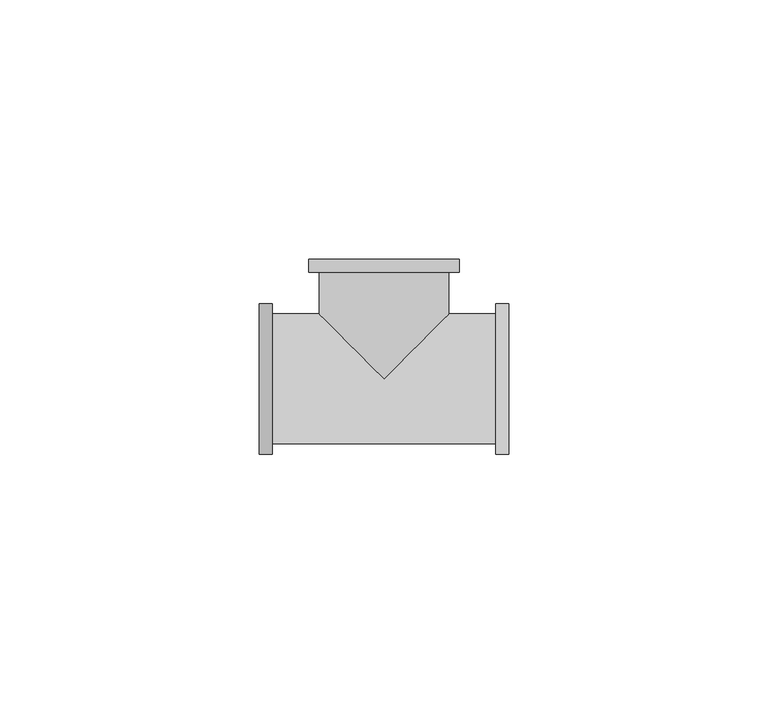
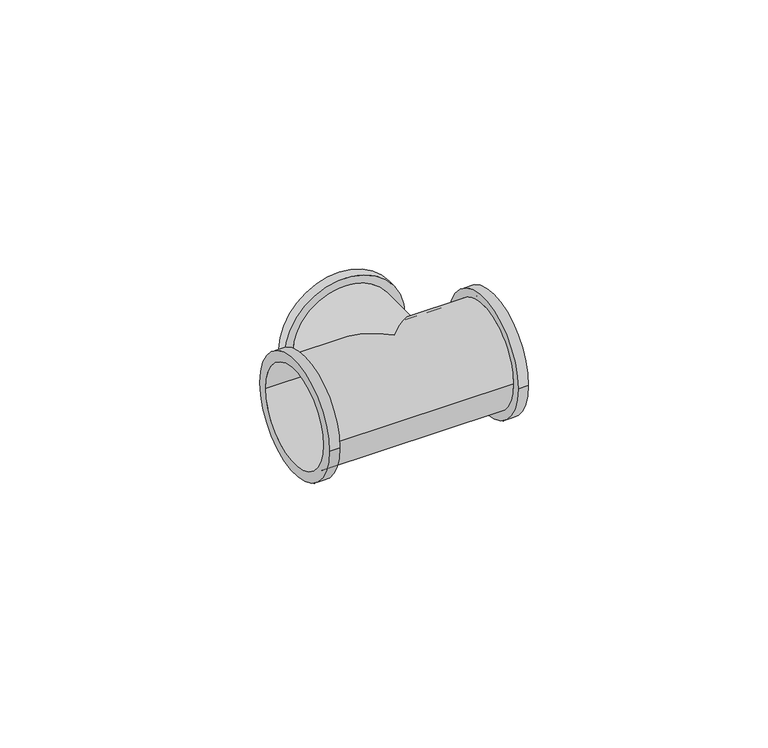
"""IFC4 building model written with IfcOpenShell, lengths in millimetres: pipe fitting geometry, БИР ПЕКС_КМП_Тройник ПЕКС : Тройник ПЕКС_КМП."""

from ifc_helpers import new_model, si_unit, frame, origin, place, context, project, spatial, polyline, circle_curve, ellipse_curve, source, transform, mapped, element, save
from ifc_brep_helpers import plane_surface, cylinder_surface, revolved_surface, advanced_brep


def pipe_fitting_5934a53c(model_context):
    return source(origin(), model_context, "Body", "AdvancedBrep", [
        advanced_brep(
        [(-14.5, 23.0, 0.0), (14.5, 23.0, 0.0), (-12.0, 23.0, 0.0), (12.0, 23.0, 0.0), (12.5, 12.5, 0.0), (0.0, 0.0, -12.5), (-12.5, 12.5, 0.0), (-12.5, 20.5, 0.0), (12.5, 20.5, 0.0), (0.0, 0.0, 12.5), (24.0, -14.5, 0.0), (24.0, 14.5, 0.0), (24.0, 12.0, 0.0), (24.0, -12.0, 0.0), (-24.0, -14.5, 0.0), (-24.0, 14.5, 0.0), (-24.0, -12.0, 0.0), (-24.0, 12.0, 0.0), (21.5, 12.5, 0.0), (21.5, -12.5, 0.0), (-21.5, -12.5, 0.0), (-21.5, 12.5, 0.0), (-14.5, 20.5, 0.0), (14.5, 20.5, 0.0), (-21.5, -14.5, 0.0), (-21.5, 14.5, 0.0), (21.5, -14.5, 0.0), (21.5, 14.5, 0.0), (-12.0, 12.0, 0.0), (0.0, 0.0, -12.0), (12.0, 12.0, 0.0), (0.0, 0.0, 12.0)],
        [
            (0, 1, circle_curve(frame((0.0, 23.0, 0.0), z_axis=(0.0, 1.0, 0.0), x_axis=(1.0, 0.0, 0.0)), 14.5)),
            (1, 0, circle_curve(frame((0.0, 23.0, 0.0), z_axis=(0.0, 1.0, 0.0), x_axis=(1.0, 0.0, 0.0)), 14.5)),
            (2, 3, circle_curve(frame((0.0, 23.0, 0.0), z_axis=(0.0, -1.0, 0.0), x_axis=(1.0, 0.0, 0.0)), 12.0)),
            (3, 2, circle_curve(frame((0.0, 23.0, 0.0), z_axis=(0.0, -1.0, 0.0), x_axis=(1.0, 0.0, 0.0)), 12.0)),
            (4, 5, ellipse_curve(frame((0.0, 0.0, 0.0), z_axis=(-0.7071067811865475, 0.7071067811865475, 0.0), x_axis=(-0.7071067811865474, -0.7071067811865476, 0.0)), 17.6776695, 12.5)),
            (5, 6, ellipse_curve(frame((0.0, 0.0, 0.0), z_axis=(0.7071067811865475, 0.7071067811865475, 0.0), x_axis=(0.7071067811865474, -0.7071067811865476, 0.0)), 17.6776695, 12.5)),
            (6, 7),
            (7, 8, circle_curve(frame((0.0, 20.5, 0.0), z_axis=(0.0, -1.0, 0.0), x_axis=(1.0, 0.0, 0.0)), 12.5)),
            (8, 4),
            (9, 4, ellipse_curve(frame((0.0, 0.0, 0.0), z_axis=(-0.7071067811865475, 0.7071067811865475, 0.0), x_axis=(-0.7071067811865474, -0.7071067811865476, 0.0)), 17.6776695, 12.5)),
            (8, 7, circle_curve(frame((0.0, 20.5, 0.0), z_axis=(0.0, -1.0, 0.0), x_axis=(1.0, 0.0, 0.0)), 12.5)),
            (6, 9, ellipse_curve(frame((0.0, 0.0, 0.0), z_axis=(0.7071067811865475, 0.7071067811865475, 0.0), x_axis=(0.7071067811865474, -0.7071067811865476, 0.0)), 17.6776695, 12.5)),
            (10, 11, circle_curve(frame((24.0, 0.0, 0.0), z_axis=(1.0, 0.0, 0.0), x_axis=(0.0, 1.0, 0.0)), 14.5)),
            (11, 10, circle_curve(frame((24.0, 0.0, 0.0), z_axis=(1.0, 0.0, 0.0), x_axis=(0.0, 1.0, 0.0)), 14.5)),
            (12, 13, circle_curve(frame((24.0, 0.0, 0.0), z_axis=(-1.0, 0.0, 0.0), x_axis=(0.0, 1.0, 0.0)), 12.0)),
            (13, 12, circle_curve(frame((24.0, 0.0, 0.0), z_axis=(-1.0, 0.0, 0.0), x_axis=(0.0, 1.0, 0.0)), 12.0)),
            (14, 15, circle_curve(frame((-24.0, 0.0, 0.0), z_axis=(-1.0, 0.0, 0.0), x_axis=(0.0, 1.0, 0.0)), 14.5)),
            (15, 14, circle_curve(frame((-24.0, 0.0, 0.0), z_axis=(-1.0, 0.0, 0.0), x_axis=(0.0, 1.0, 0.0)), 14.5)),
            (16, 17, circle_curve(frame((-24.0, 0.0, 0.0), z_axis=(1.0, 0.0, 0.0), x_axis=(0.0, 1.0, 0.0)), 12.0)),
            (17, 16, circle_curve(frame((-24.0, 0.0, 0.0), z_axis=(1.0, 0.0, 0.0), x_axis=(0.0, 1.0, 0.0)), 12.0)),
            (4, 18),
            (18, 19, circle_curve(frame((21.5, 0.0, 0.0), z_axis=(-1.0, 0.0, 0.0), x_axis=(0.0, 1.0, 0.0)), 12.5)),
            (19, 20),
            (20, 21, circle_curve(frame((-21.5, 0.0, 0.0), z_axis=(1.0, 0.0, 0.0), x_axis=(0.0, 1.0, 0.0)), 12.5)),
            (21, 6),
            (21, 20, circle_curve(frame((-21.5, 0.0, 0.0), z_axis=(1.0, 0.0, 0.0), x_axis=(0.0, 1.0, 0.0)), 12.5)),
            (19, 18, circle_curve(frame((21.5, 0.0, 0.0), z_axis=(-1.0, 0.0, 0.0), x_axis=(0.0, 1.0, 0.0)), 12.5)),
            (22, 23, circle_curve(frame((0.0, 20.5, 0.0), z_axis=(0.0, -1.0, 0.0), x_axis=(1.0, 0.0, 0.0)), 14.5)),
            (23, 22, circle_curve(frame((0.0, 20.5, 0.0), z_axis=(0.0, -1.0, 0.0), x_axis=(1.0, 0.0, 0.0)), 14.5)),
            (22, 0),
            (1, 23),
            (24, 25, circle_curve(frame((-21.5, 0.0, 0.0), z_axis=(1.0, 0.0, 0.0), x_axis=(0.0, 1.0, 0.0)), 14.5)),
            (25, 24, circle_curve(frame((-21.5, 0.0, 0.0), z_axis=(1.0, 0.0, 0.0), x_axis=(0.0, 1.0, 0.0)), 14.5)),
            (15, 25),
            (24, 14),
            (26, 27, circle_curve(frame((21.5, 0.0, 0.0), z_axis=(-1.0, 0.0, 0.0), x_axis=(0.0, 1.0, 0.0)), 14.5)),
            (27, 26, circle_curve(frame((21.5, 0.0, 0.0), z_axis=(-1.0, 0.0, 0.0), x_axis=(0.0, 1.0, 0.0)), 14.5)),
            (10, 26),
            (27, 11),
            (2, 28),
            (28, 29, ellipse_curve(frame((0.0, 0.0, 0.0), z_axis=(-0.7071067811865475, -0.7071067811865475, 0.0), x_axis=(0.7071067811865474, -0.7071067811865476, 0.0)), 16.9705627, 12.0)),
            (29, 30, ellipse_curve(frame((0.0, 0.0, 0.0), z_axis=(0.7071067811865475, -0.7071067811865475, 0.0), x_axis=(-0.7071067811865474, -0.7071067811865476, 0.0)), 16.9705627, 12.0)),
            (30, 3),
            (30, 31, ellipse_curve(frame((0.0, 0.0, 0.0), z_axis=(0.7071067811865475, -0.7071067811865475, 0.0), x_axis=(-0.7071067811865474, -0.7071067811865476, 0.0)), 16.9705627, 12.0)),
            (31, 28, ellipse_curve(frame((0.0, 0.0, 0.0), z_axis=(-0.7071067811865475, -0.7071067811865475, 0.0), x_axis=(0.7071067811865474, -0.7071067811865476, 0.0)), 16.9705627, 12.0)),
            (16, 13),
            (12, 30),
            (28, 17),
        ],
        [
            plane_surface(frame((12.5, 23.0, 0.0), z_axis=(0.0, 1.0, 0.0), x_axis=(0.0, 0.0, -1.0))),
            cylinder_surface(frame((0.0, 23.0, 0.0), z_axis=(0.0, -1.0, 0.0), x_axis=(1.0, 0.0, 0.0)), 12.5),
            plane_surface(frame((24.0, 12.5, 0.0), z_axis=(1.0, 0.0, 0.0), x_axis=(0.0, 0.0, 1.0))),
            plane_surface(frame((-24.0, 12.5, 0.0), z_axis=(-1.0, 0.0, 0.0), x_axis=(0.0, 0.0, -1.0))),
            cylinder_surface(frame((-24.0, 0.0, 0.0), z_axis=(1.0, 0.0, 0.0), x_axis=(0.0, 1.0, 0.0)), 12.5),
            plane_surface(frame((14.5, 20.5, 0.0), z_axis=(0.0, -1.0, 0.0), x_axis=(0.0, 0.0, 1.0))),
            cylinder_surface(frame((0.0, 23.0, 0.0), z_axis=(0.0, -1.0, 0.0), x_axis=(1.0, 0.0, 0.0)), 14.5),
            plane_surface(frame((-21.5, 14.5, 0.0), z_axis=(1.0, 0.0, 0.0), x_axis=(0.0, 0.0, 1.0))),
            cylinder_surface(frame((-21.5, 0.0, 0.0), z_axis=(-1.0, 0.0, 0.0), x_axis=(0.0, 1.0, 0.0)), 14.5),
            plane_surface(frame((21.5, 14.5, 0.0), z_axis=(-1.0, 0.0, 0.0), x_axis=(0.0, 0.0, -1.0))),
            cylinder_surface(frame((21.5, 0.0, 0.0), z_axis=(1.0, 0.0, 0.0), x_axis=(0.0, 1.0, 0.0)), 14.5),
            revolved_surface(polyline([(12.0, -11.999999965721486, 0.0), (12.0, 23.0, 0.0)]), (0.0, 23.0, 0.0), (0.0, -1.0, 0.0)),
            revolved_surface(polyline([(24.0, 12.0, 0.0), (-24.0, 12.0, 0.0)]), (-24.0, 0.0, 0.0), (1.0, 0.0, 0.0)),
        ],
        [
            (0, [[1, 2], [3, 4]]),
            (1, [[5, 6, 7, 8, 9]]),
            (1, [[10, -9, 11, -7, 12]]),
            (2, [[13, 14], [15, 16]]),
            (3, [[17, 18], [19, 20]]),
            (4, [[-5, 21, 22, 23, 24, 25, -6]]),
            (4, [[-10, -12, -25, 26, -23, 27, -21]]),
            (5, [[28, 29], [-8, -11]]),
            (6, [[-28, 30, -2, 31]]),
            (6, [[-29, -31, -1, -30]]),
            (7, [[32, 33], [-24, -26]]),
            (8, [[-18, 34, -32, 35]]),
            (8, [[-17, -35, -33, -34]]),
            (9, [[36, 37], [-22, -27]]),
            (10, [[-13, 38, -37, 39]]),
            (10, [[-14, -39, -36, -38]]),
            (11, [[-3, 40, 41, 42, 43]]),
            (11, [[-4, -43, 44, 45, -40]]),
            (12, [[46, -15, 47, -42, -41, 48, -19]]),
            (12, [[-46, -20, -48, -45, -44, -47, -16]]),
        ],
    ),
    ])


if __name__ == "__main__":
    model = new_model("IFC4")
    model_context = context("Model", 3, world=origin())
    ifc_project = project(units=[si_unit("LENGTHUNIT", "METRE", prefix="MILLI")], contexts=[model_context])
    site = spatial("IfcSite", under=ifc_project)
    building = spatial("IfcBuilding", under=site)
    placement = place(None, origin())
    pipe_fitting_shape = pipe_fitting_5934a53c(model_context)
    element("IfcPipeFitting", 1, ObjectType="БИР ПЕКС_КМП_Тройник ПЕКС : Тройник ПЕКС_КМП", at=placement, inside=building, context=model_context, shape_type="MappedRepresentation", body=[
        mapped(pipe_fitting_shape, transform((0.0, 0.0, 0.0), x_axis=(1.0, 0.0, 0.0), y_axis=(0.0, 1.0, 0.0), z_axis=(0.0, 0.0, 1.0))),
    ])
    save(model, "model.ifc")
